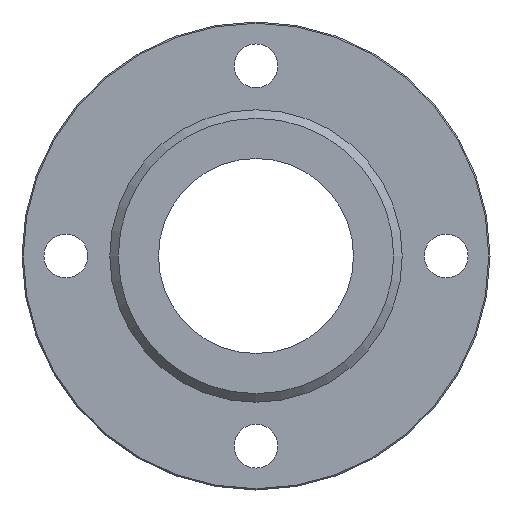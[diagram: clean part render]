
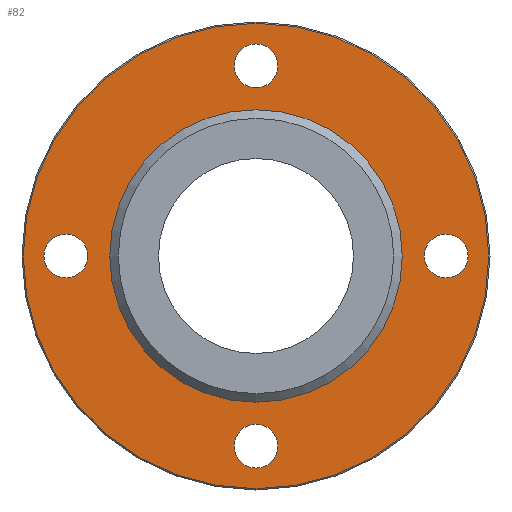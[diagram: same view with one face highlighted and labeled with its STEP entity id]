
A CAD part, left-side view. The second image highlights one B-rep face of the part: STEP entity #82.
In plain terms, the highlighted planar face has unit normal (-1, 0, 0).
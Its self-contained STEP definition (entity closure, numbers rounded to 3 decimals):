
#82=ADVANCED_FACE('',(#122,#123,#124,#125,#126,#127),#128,.F.);
#122=FACE_BOUND('',#193,.T.);
#123=FACE_BOUND('',#194,.T.);
#124=FACE_BOUND('',#195,.T.);
#125=FACE_BOUND('',#196,.T.);
#126=FACE_BOUND('',#197,.T.);
#127=FACE_OUTER_BOUND('',#198,.T.);
#128=PLANE('',#199);
#193=EDGE_LOOP('',(#278));
#194=EDGE_LOOP('',(#279));
#195=EDGE_LOOP('',(#280));
#196=EDGE_LOOP('',(#281));
#197=EDGE_LOOP('',(#282));
#198=EDGE_LOOP('',(#283));
#199=AXIS2_PLACEMENT_3D('',#284,#285,#286);
#278=ORIENTED_EDGE('',*,*,#366,.T.);
#279=ORIENTED_EDGE('',*,*,#367,.T.);
#280=ORIENTED_EDGE('',*,*,#356,.T.);
#281=ORIENTED_EDGE('',*,*,#368,.T.);
#282=ORIENTED_EDGE('',*,*,#365,.F.);
#283=ORIENTED_EDGE('',*,*,#369,.T.);
#284=CARTESIAN_POINT('',(-18.0,47.746,0.0));
#285=DIRECTION('',(1.0,0.0,0.0));
#286=DIRECTION('',(0.0,0.0,-1.0));
#356=EDGE_CURVE('',#385,#385,#386,.T.);
#365=EDGE_CURVE('',#403,#403,#404,.T.);
#366=EDGE_CURVE('',#405,#405,#406,.T.);
#367=EDGE_CURVE('',#407,#407,#408,.T.);
#368=EDGE_CURVE('',#409,#409,#410,.T.);
#369=EDGE_CURVE('',#411,#411,#412,.T.);
#385=VERTEX_POINT('',#435);
#386=CIRCLE('',#436,4.5);
#403=VERTEX_POINT('',#453);
#404=CIRCLE('',#454,30.0);
#405=VERTEX_POINT('',#455);
#406=CIRCLE('',#456,4.5);
#407=VERTEX_POINT('',#457);
#408=CIRCLE('',#458,4.5);
#409=VERTEX_POINT('',#459);
#410=CIRCLE('',#460,4.5);
#411=VERTEX_POINT('',#461);
#412=CIRCLE('',#462,47.746);
#435=CARTESIAN_POINT('',(-18.0,0.0,34.5));
#436=AXIS2_PLACEMENT_3D('',#489,#490,#491);
#453=CARTESIAN_POINT('',(-18.0,0.,30.0));
#454=AXIS2_PLACEMENT_3D('',#516,#517,#518);
#455=CARTESIAN_POINT('',(-18.0,0.,-43.5));
#456=AXIS2_PLACEMENT_3D('',#519,#520,#521);
#457=CARTESIAN_POINT('',(-18.0,-39.0,-4.5));
#458=AXIS2_PLACEMENT_3D('',#522,#523,#524);
#459=CARTESIAN_POINT('',(-18.0,39.0,-4.5));
#460=AXIS2_PLACEMENT_3D('',#525,#526,#527);
#461=CARTESIAN_POINT('',(-18.0,0.,47.746));
#462=AXIS2_PLACEMENT_3D('',#528,#529,#530);
#489=CARTESIAN_POINT('',(-18.0,0.0,39.0));
#490=DIRECTION('',(1.0,0.0,0.0));
#491=DIRECTION('',(0.0,0.0,-1.0));
#516=CARTESIAN_POINT('',(-18.0,0.,0.0));
#517=DIRECTION('',(-1.0,0.0,0.0));
#518=DIRECTION('',(0.0,0.0,1.0));
#519=CARTESIAN_POINT('',(-18.0,0.,-39.0));
#520=DIRECTION('',(1.0,0.0,0.0));
#521=DIRECTION('',(0.0,0.0,-1.0));
#522=CARTESIAN_POINT('',(-18.0,-39.0,0.));
#523=DIRECTION('',(1.0,0.0,0.0));
#524=DIRECTION('',(0.0,0.0,-1.0));
#525=CARTESIAN_POINT('',(-18.0,39.0,0.0));
#526=DIRECTION('',(1.0,0.0,0.0));
#527=DIRECTION('',(0.0,0.0,-1.0));
#528=CARTESIAN_POINT('',(-18.0,0.,0.0));
#529=DIRECTION('',(-1.0,0.0,0.0));
#530=DIRECTION('',(0.0,0.0,1.0));
